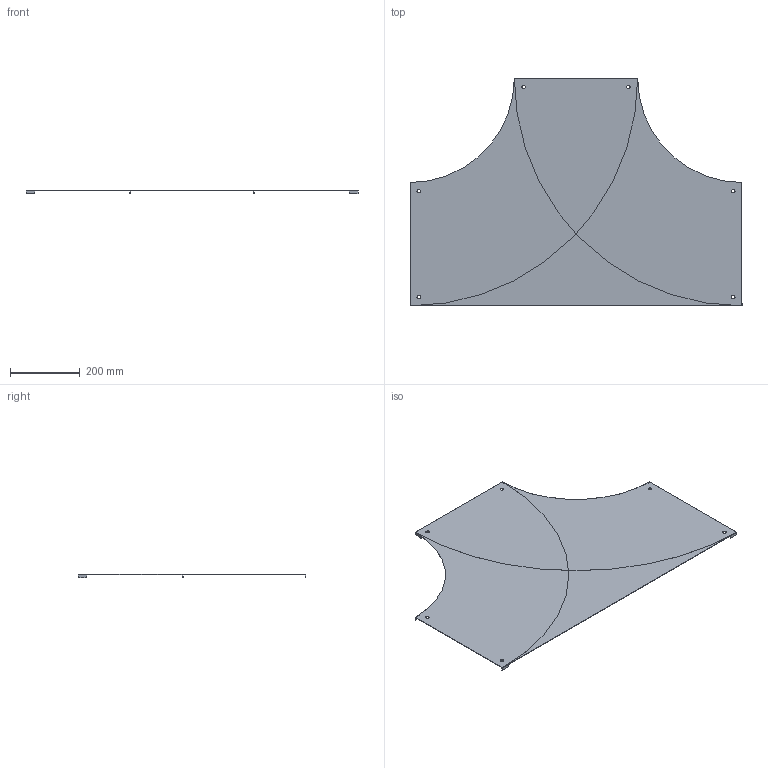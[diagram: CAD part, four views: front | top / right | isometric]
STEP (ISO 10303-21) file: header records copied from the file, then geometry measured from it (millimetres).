
FILE_DESCRIPTION(/* description */ ('','CAx-IF Rec.Pracs.---Representation and Presentation of Product Manufacturing Information (PMI)---4.0---2014-10-13'),/* implementation_level */ '2;1');
FILE_NAME(/* name */ 'Eurostrut_EETC300-300_Cover T-Piece for Cable Ladder ECL.step',/* time_stamp */ '2026-09-10T09:50:48+02:00',/* author */ (''),/* organization */ (''),/* preprocessor_version */ 'ST-DEVELOPER v20.1',/* originating_system */ 'Autodesk Revit 2027 27.2.0.39',/* authorisation */ '');
FILE_SCHEMA (('AP242_MANAGED_MODEL_BASED_3D_ENGINEERING_MIM_LF { 1 0 10303 442 2 1 4 }'));
Length unit declared in the file: millimetre
Products named in the file (7): TopLevelAssembly; Extrusion; Joined Solid Geometry; Joined Solid Geometry_1; Joined Solid Geometry_2; Joined Solid Geometry_3; Joined Solid Geometry_4
Assembly tree (6 placements, depth 2):
  TopLevelAssembly
    Extrusion
    Joined Solid Geometry
    Joined Solid Geometry_1
    Joined Solid Geometry_2
    Joined Solid Geometry_3
    Joined Solid Geometry_4
Bounding box: 950 x 651.5 x 9 mm (x, y, z)
Volume: 1508634.6 mm3; surface area: 2023772.9 mm2
Topology: 9 solids, 9 shells, 84 faces, 198 edges, 132 vertices
Faces by surface type: plane 42, cylinder 42
Entity records: 2630 total; most frequent: DIRECTION 476, CARTESIAN_POINT 427, ORIENTED_EDGE 396, EDGE_CURVE 198, AXIS2_PLACEMENT_3D 181, VERTEX_POINT 132, LINE 114, VECTOR 114
